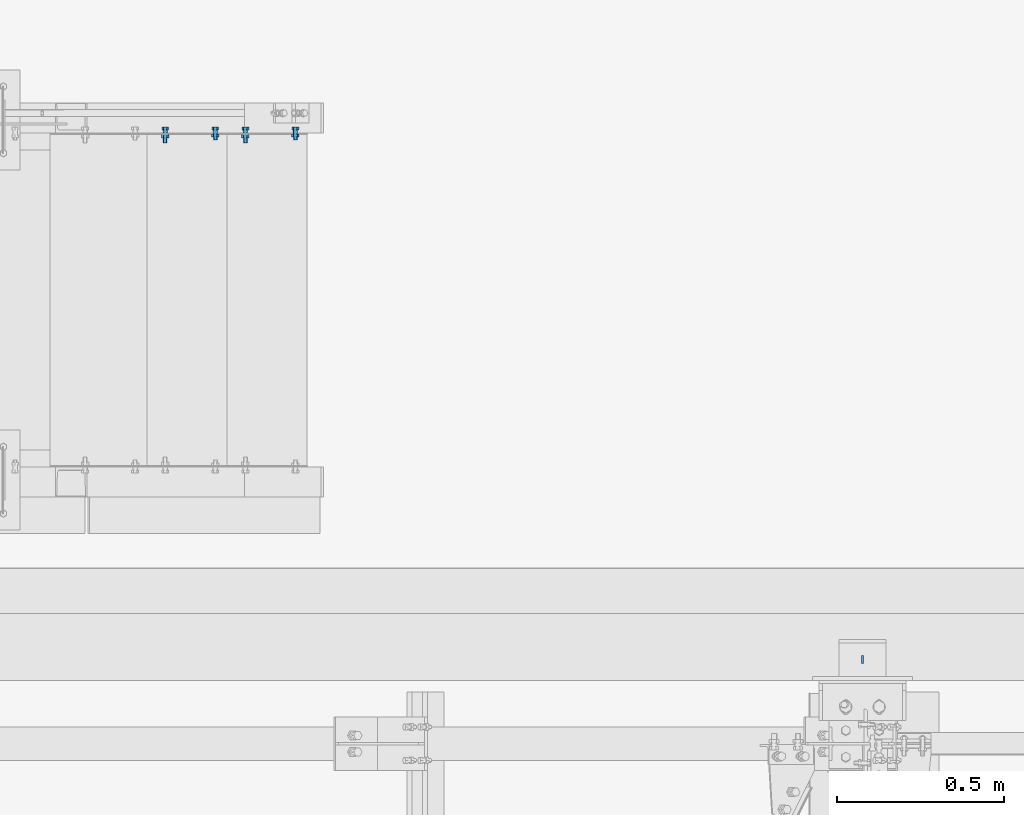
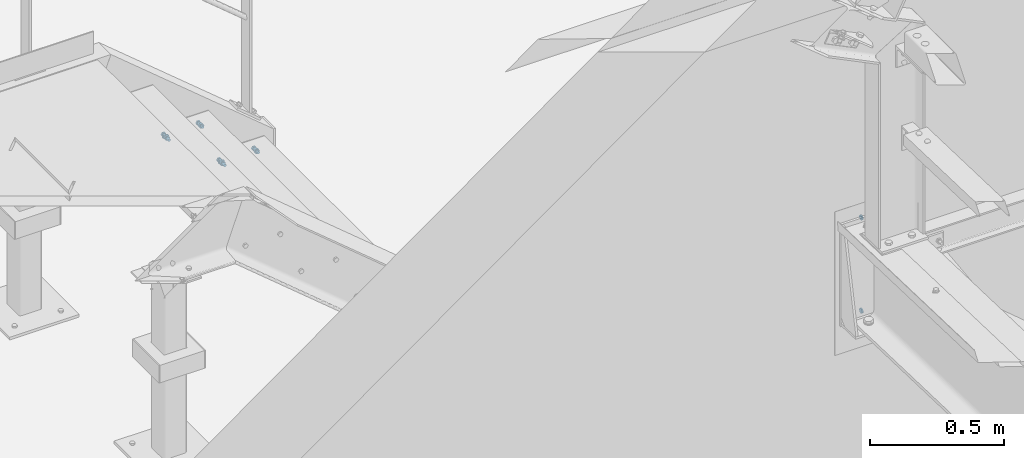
# One storey, part 339 of 362: 6 mechanical fasteners.
"""IFC2X3 building model written with IfcOpenShell, lengths in millimetres."""

from ifc_helpers import new_model, si_unit, frame, frame_2d, origin_with_axes, origin_2d_with_axis, place, context, subcontext, project, spatial, polyline, circle_curve, parameter, trimmed, segment, composite_curve, circle, outline, extrude, source, transform, mapped, material, type_object, element, save


model = new_model("IFC2X3")

# Units and contexts
model_context = context("Model", 3, precision=1e-05, world=origin_with_axes())
body_context = subcontext(model_context, "Body", "Model", "MODEL_VIEW")
ifc_project = project(units=[si_unit("LENGTHUNIT", "METRE", prefix="MILLI"), si_unit("AREAUNIT", "SQUARE_METRE"), si_unit("VOLUMEUNIT", "CUBIC_METRE"), si_unit("MASSUNIT", "GRAM", prefix="KILO"), si_unit("TIMEUNIT", "SECOND"), si_unit("PLANEANGLEUNIT", "RADIAN"), si_unit("SOLIDANGLEUNIT", "STERADIAN"), si_unit("THERMODYNAMICTEMPERATUREUNIT", "DEGREE_CELSIUS"), si_unit("LUMINOUSINTENSITYUNIT", "LUMEN")], contexts=[model_context])

# Site, building, storey
site_placement = place(None, origin_with_axes())
site = spatial("IfcSite", under=ifc_project, at=site_placement, Name="Undefined", CompositionType="ELEMENT")
building_placement = place(site_placement, origin_with_axes())
building = spatial("IfcBuilding", under=site, at=building_placement, Name="Undefined", CompositionType="ELEMENT")
storey_placement = place(building_placement, origin_with_axes())
storey = spatial("IfcBuildingStorey", under=building, at=storey_placement, Name="Undefined", CompositionType="ELEMENT", Elevation=0.0)

# Mechanical fasteners
ifc_material_1 = material(Name="8.8-SB-GALVA")
mechanical_fastener_type = type_object("IfcMechanicalFastenerType", Name="Bolt assembly")
shared_shape_1 = source(origin_with_axes(), body_context, "Body", "SweptSolid", [
    extrude(circle(Radius=7.0, at=origin_2d_with_axis()), frame((0.0, -9.89975487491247, 0.0), z_axis=(0.0, 1.0, 0.0), x_axis=(1.0, 0.0, 0.0)), (0.0, 0.0, 1.0), 10.0),
    extrude(circle(Radius=7.0, at=origin_2d_with_axis()), frame((0.0, -0.100011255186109, 0.0), z_axis=(0.0, 1.0, 0.0), x_axis=(1.0, 0.0, 0.0)), (0.0, 0.0, 1.0), 3.1),
    extrude(outline(polyline([(10.39230484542, 0.0), (5.19615242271, 9.00000000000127), (-5.19615242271, 9.00000000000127), (-10.39230484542, 0.0), (-5.19615242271, -9.00000000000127), (5.19615242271, -9.00000000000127), (10.39230484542, 0.0)])), frame((0.0, -17.9197548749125, 0.0), z_axis=(0.0, 1.0, 0.0), x_axis=(1.0, 0.0, 0.0)), (0.0, 0.0, 1.0), 7.92),
    extrude(circle(Radius=6.0, at=origin_2d_with_axis()), frame((0.0, -9.99975487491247, 0.0), z_axis=(0.0, 1.0, 0.0), x_axis=(1.0, 0.0, 0.0)), (0.0, 0.0, 1.0), 30.0),
    extrude(outline(polyline([(11.5008173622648, 0.0), (5.7504086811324, 9.96000000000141), (-5.7504086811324, 9.96000000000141), (-11.5008173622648, 0.0), (-5.7504086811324, -9.96000000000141), (5.7504086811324, -9.96000000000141), (11.5008173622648, 0.0)])), frame((0.0, 3.00000067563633, 0.0), z_axis=(0.0, 1.0, 0.0), x_axis=(1.0, 0.0, 0.0)), (0.0, 0.0, 1.0), 7.92),
])
for number, where, z_axis, x_axis, name in (
    (1, (36389.9999902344, 17029.9999136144, 7655.0), (0.0, 0.0, 1.0), (-1.0, 0.0, 0.0), "Bolt assembly"),
    (2, (36629.9999902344, 17029.9999136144, 7455.0), (0.0, 0.0, 1.0), (-1.0, 0.0, 0.0), "Bolt assembly"),
):
    element("IfcMechanicalFastener", number, at=place(storey_placement, frame(where, z_axis=z_axis, x_axis=x_axis)), inside=storey, type_object=mechanical_fastener_type, material=ifc_material_1, Name=name, NominalDiameter=12.0, NominalLength=30.0, context=body_context, shape_type="MappedRepresentation", body=[
        mapped(shared_shape_1, transform((0.0, 0.0, 0.0))),
    ])
shared_shape_2 = source(origin_with_axes(), body_context, "Body", "SweptSolid", [
    extrude(circle(Radius=7.0, at=origin_2d_with_axis()), frame((0.0, -9.89975487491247, 0.0), z_axis=(0.0, 1.0, 0.0), x_axis=(1.0, 0.0, 0.0)), (0.0, 0.0, 1.0), 10.0),
    extrude(outline(composite_curve([segment(polyline([(-7.0, 7.0), (7.0, 7.0)]), True, "CONTINUOUS"), segment(trimmed(circle_curve(frame_2d((7.0, 0.0), x_axis=(0.0, 1.0)), 7.0), [parameter(0.0)], [parameter(3.14159265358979)], False, "PARAMETER"), True, "CONTINUOUS"), segment(polyline([(7.0, -7.0), (-7.0, -7.0)]), True, "CONTINUOUS"), segment(trimmed(circle_curve(frame_2d((-7.0, 0.0), x_axis=(0.0, -1.0)), 7.0), [parameter(0.0)], [parameter(3.14159265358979)], False, "PARAMETER"), True, "DISCONTINUOUS")], self_intersect=False)), frame((0.0, -0.100011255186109, 0.0), z_axis=(0.0, 1.0, 0.0), x_axis=(1.0, 0.0, 0.0)), (0.0, 0.0, 1.0), 3.1),
    extrude(outline(polyline([(10.39230484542, 0.0), (5.19615242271, 9.00000000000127), (-5.19615242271, 9.00000000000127), (-10.39230484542, 0.0), (-5.19615242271, -9.00000000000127), (5.19615242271, -9.00000000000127), (10.39230484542, 0.0)])), frame((0.0, -17.9197548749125, 0.0), z_axis=(0.0, 1.0, 0.0), x_axis=(1.0, 0.0, 0.0)), (0.0, 0.0, 1.0), 7.92),
    extrude(circle(Radius=6.0, at=origin_2d_with_axis()), frame((0.0, -9.99975487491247, 0.0), z_axis=(0.0, 1.0, 0.0), x_axis=(1.0, 0.0, 0.0)), (0.0, 0.0, 1.0), 40.0),
    extrude(circle(Radius=10.8, at=origin_2d_with_axis()), frame((0.0, 3.00000067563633, 0.0), z_axis=(0.0, 1.0, 0.0), x_axis=(1.0, 0.0, 0.0)), (0.0, 0.0, 1.0), 3.96),
    extrude(outline(polyline([(11.5008173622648, 0.0), (5.7504086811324, 9.96000000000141), (-5.7504086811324, 9.96000000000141), (-11.5008173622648, 0.0), (-5.7504086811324, -9.96000000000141), (5.7504086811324, -9.96000000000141), (11.5008173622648, 0.0)])), frame((0.0, 6.96, 0.0), z_axis=(0.0, 1.0, 0.0), x_axis=(1.0, 0.0, 0.0)), (0.0, 0.0, 1.0), 7.92),
])
mechanical_fastener_1_placement = place(storey_placement, frame((36239.9999902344, 17029.9999136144, 7655.0), z_axis=(0.0, 0.0, 1.0), x_axis=(-1.0, 0.0, 0.0)))
element("IfcMechanicalFastener", 3, at=mechanical_fastener_1_placement, inside=storey, type_object=mechanical_fastener_type, material=ifc_material_1, Name="Bolt assembly", NominalDiameter=12.0, NominalLength=40.0, context=body_context, shape_type="MappedRepresentation", body=[
    mapped(shared_shape_2, transform((0.0, 0.0, 0.0))),
])
shared_shape_3 = source(origin_with_axes(), body_context, "Body", "SweptSolid", [
    extrude(circle(Radius=7.0, at=origin_2d_with_axis()), frame((0.0, -9.89975487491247, 0.0), z_axis=(0.0, 1.0, 0.0), x_axis=(1.0, 0.0, 0.0)), (0.0, 0.0, 1.0), 10.0),
    extrude(outline(composite_curve([segment(polyline([(-7.0, 7.0), (7.0, 7.0)]), True, "CONTINUOUS"), segment(trimmed(circle_curve(frame_2d((7.0, 0.0), x_axis=(0.0, 1.0)), 7.0), [parameter(0.0)], [parameter(3.14159265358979)], False, "PARAMETER"), True, "CONTINUOUS"), segment(polyline([(7.0, -7.0), (-7.0, -7.0)]), True, "CONTINUOUS"), segment(trimmed(circle_curve(frame_2d((-7.0, 0.0), x_axis=(0.0, -1.0)), 7.0), [parameter(0.0)], [parameter(3.14159265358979)], False, "PARAMETER"), True, "DISCONTINUOUS")], self_intersect=False)), frame((0.0, -0.100011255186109, 0.0), z_axis=(0.0, 1.0, 0.0), x_axis=(1.0, 0.0, 0.0)), (0.0, 0.0, 1.0), 3.1),
    extrude(outline(polyline([(10.39230484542, 0.0), (5.19615242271, 9.00000000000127), (-5.19615242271, 9.00000000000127), (-10.39230484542, 0.0), (-5.19615242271, -9.00000000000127), (5.19615242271, -9.00000000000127), (10.39230484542, 0.0)])), frame((0.0, -17.9197548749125, 0.0), z_axis=(0.0, 1.0, 0.0), x_axis=(1.0, 0.0, 0.0)), (0.0, 0.0, 1.0), 7.92),
    extrude(circle(Radius=6.0, at=origin_2d_with_axis()), frame((0.0, -9.99975487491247, 0.0), z_axis=(0.0, 1.0, 0.0), x_axis=(1.0, 0.0, 0.0)), (0.0, 0.0, 1.0), 40.0),
    extrude(circle(Radius=10.8, at=origin_2d_with_axis()), frame((0.0, 3.00000067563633, 0.0), z_axis=(0.0, 1.0, 0.0), x_axis=(1.0, 0.0, 0.0)), (0.0, 0.0, 1.0), 3.96),
    extrude(outline(polyline([(11.5008173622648, 0.0), (5.7504086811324, 9.96000000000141), (-5.7504086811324, 9.96000000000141), (-11.5008173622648, 0.0), (-5.7504086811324, -9.96000000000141), (5.7504086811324, -9.96000000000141), (11.5008173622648, 0.0)])), frame((0.0, 6.96, 0.0), z_axis=(0.0, 1.0, 0.0), x_axis=(1.0, 0.0, 0.0)), (0.0, 0.0, 1.0), 7.92),
])
mechanical_fastener_2_placement = place(storey_placement, frame((36479.9999902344, 17029.9999136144, 7455.0), z_axis=(0.0, 0.0, 1.0), x_axis=(-1.0, 0.0, 0.0)))
element("IfcMechanicalFastener", 4, at=mechanical_fastener_2_placement, inside=storey, type_object=mechanical_fastener_type, material=ifc_material_1, Name="Bolt assembly", NominalDiameter=12.0, NominalLength=40.0, context=body_context, shape_type="MappedRepresentation", body=[
    mapped(shared_shape_3, transform((0.0, 0.0, 0.0))),
])
ifc_material_2 = material(Name="6.8")
shared_shape_4 = source(origin_with_axes(), body_context, "Body", "SweptSolid", [
    extrude(circle(Radius=11.0, at=origin_2d_with_axis()), frame((0.0, -2.74999998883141, 0.0), z_axis=(0.0, 1.0, 0.0), x_axis=(1.0, 0.0, 0.0)), (0.0, 0.0, 1.0), 5.6),
])
for number, where, z_axis, x_axis, name in (
    (5, (38330.0000000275, 15452.0000002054, 7084.99830350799), (0.0, 0.0, 1.0), (0.0, -1.0, 0.0), "Bolt assembly"),
    (6, (38330.0000000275, 15452.0000002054, 7509.99830350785), (0.0, 0.0, 1.0), (0.0, -1.0, 0.0), "Bolt assembly"),
):
    element("IfcMechanicalFastener", number, at=place(storey_placement, frame(where, z_axis=z_axis, x_axis=x_axis)), inside=storey, type_object=mechanical_fastener_type, material=ifc_material_2, Name=name, NominalDiameter=20.0, NominalLength=5.5, context=body_context, shape_type="MappedRepresentation", body=[
        mapped(shared_shape_4, transform((0.0, 0.0, 0.0))),
    ])

save(model, "model.ifc")
